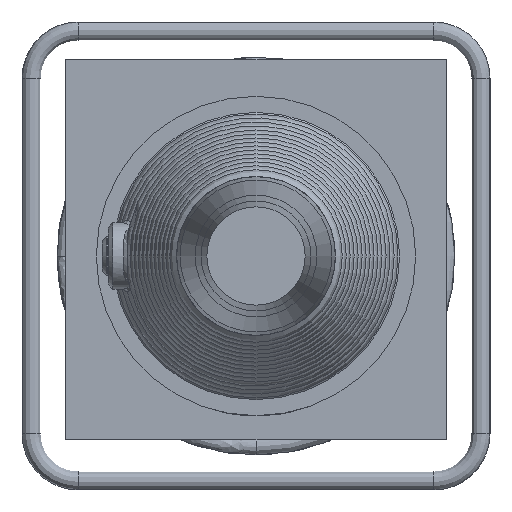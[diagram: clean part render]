
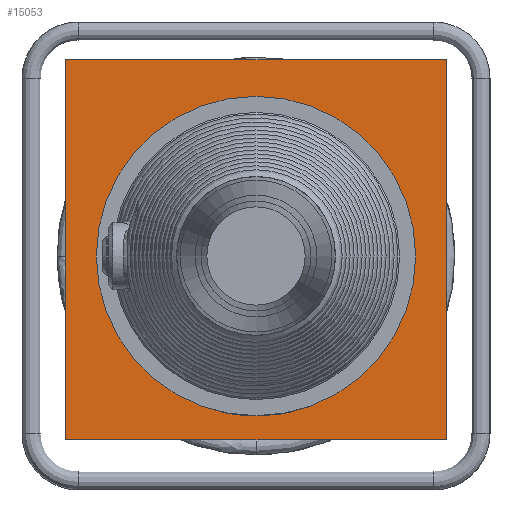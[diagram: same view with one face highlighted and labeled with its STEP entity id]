
A CAD part, left-side view. The second image highlights one B-rep face of the part: STEP entity #15053.
In plain terms, the highlighted planar face has unit normal (-1, 0, 0).
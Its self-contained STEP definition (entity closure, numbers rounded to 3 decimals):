
#1539=PLANE('',#15853);
#2444=LINE('',#38718,#3354);
#2448=LINE('',#38725,#3358);
#2451=LINE('',#38730,#3361);
#2454=LINE('',#38734,#3364);
#3354=VECTOR('',#18293,325.);
#3358=VECTOR('',#18299,325.);
#3361=VECTOR('',#18304,325.);
#3364=VECTOR('',#18309,325.);
#3609=FACE_BOUND('',#5472,.T.);
#4456=FACE_OUTER_BOUND('',#5471,.T.);
#5471=EDGE_LOOP('',(#13644,#13645,#13646,#13647));
#5472=EDGE_LOOP('',(#13648));
#5931=CIRCLE('',#15795,136.5);
#7370=VERTEX_POINT('',#35225);
#7394=VERTEX_POINT('',#38716);
#7395=VERTEX_POINT('',#38717);
#7397=VERTEX_POINT('',#38724);
#7398=VERTEX_POINT('',#38729);
#9473=EDGE_CURVE('',#7370,#7370,#5931,.T.);
#9499=EDGE_CURVE('',#7394,#7395,#2444,.T.);
#9503=EDGE_CURVE('',#7395,#7397,#2448,.T.);
#9506=EDGE_CURVE('',#7397,#7398,#2451,.T.);
#9509=EDGE_CURVE('',#7398,#7394,#2454,.T.);
#13644=ORIENTED_EDGE('',*,*,#9509,.T.);
#13645=ORIENTED_EDGE('',*,*,#9499,.T.);
#13646=ORIENTED_EDGE('',*,*,#9503,.T.);
#13647=ORIENTED_EDGE('',*,*,#9506,.T.);
#13648=ORIENTED_EDGE('',*,*,#9473,.T.);
#15053=ADVANCED_FACE('',(#4456,#3609),#1539,.F.);
#15795=AXIS2_PLACEMENT_3D('',#35226,#18178,#18179);
#15853=AXIS2_PLACEMENT_3D('',#38735,#18310,#18311);
#18178=DIRECTION('center_axis',(1.,0.,0.));
#18179=DIRECTION('ref_axis',(0.,1.,0.));
#18293=DIRECTION('',(0.,0.,-1.));
#18299=DIRECTION('',(0.,-1.,0.));
#18304=DIRECTION('',(0.,0.,1.));
#18309=DIRECTION('',(0.,1.,0.));
#18310=DIRECTION('center_axis',(1.,0.,0.));
#18311=DIRECTION('ref_axis',(0.,0.,1.));
#35225=CARTESIAN_POINT('',(-112.151,136.5,0.));
#35226=CARTESIAN_POINT('Origin',(-112.151,0.,
0.));
#38716=CARTESIAN_POINT('',(-112.151,162.5,167.753));
#38717=CARTESIAN_POINT('',(-112.151,162.5,-157.247));
#38718=CARTESIAN_POINT('',(-112.151,162.5,167.753));
#38724=CARTESIAN_POINT('',(-112.151,-162.5,-157.247));
#38725=CARTESIAN_POINT('',(-112.151,162.5,-157.247));
#38729=CARTESIAN_POINT('',(-112.151,-162.5,167.753));
#38730=CARTESIAN_POINT('',(-112.151,-162.5,-157.247));
#38734=CARTESIAN_POINT('',(-112.151,-162.5,167.753));
#38735=CARTESIAN_POINT('Origin',(-112.151,0.,5.253));
